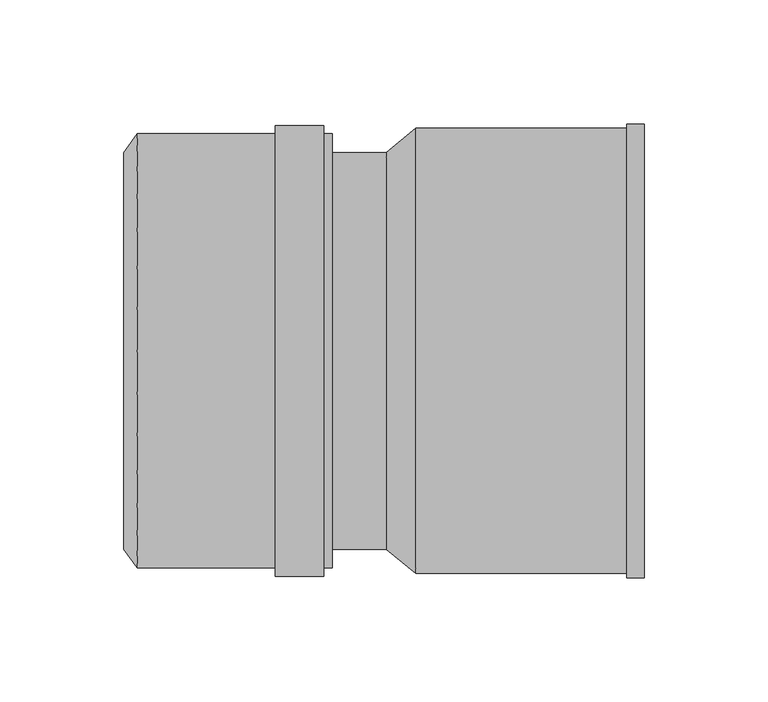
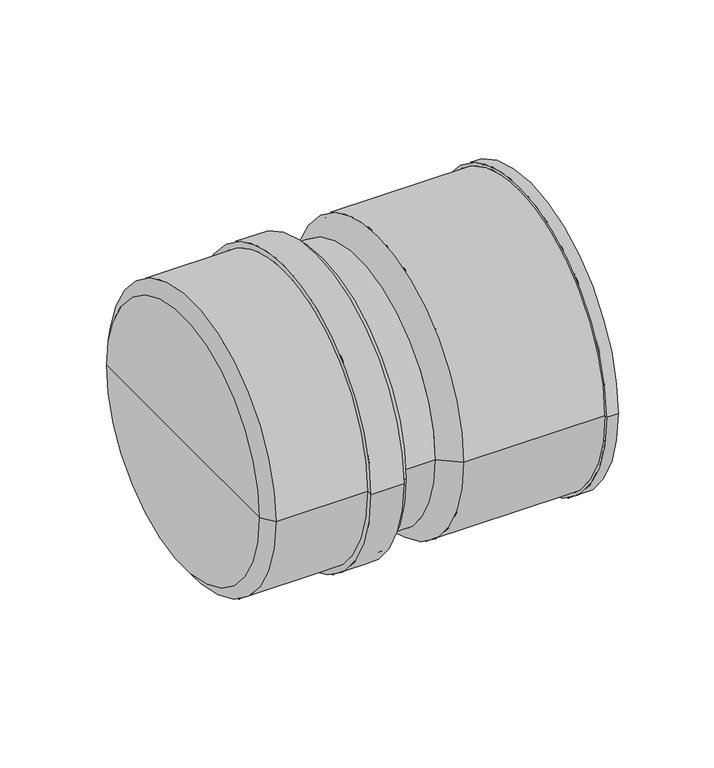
"""IFC4 building model written with IfcOpenShell, lengths in millimetres: pipe fitting geometry, pf_KGUG : pf_KGUG."""

from ifc_helpers import new_model, si_unit, point, frame, origin, origin_2d, place, context, project, spatial, polyline, circle_curve, trimmed, segment, composite_curve, outline, extrude, source, transform, mapped, element, save
from ifc_brep_helpers import plane_surface, cylinder_surface, revolved_surface, advanced_brep


def pipe_fitting_2887bba4(model_context):
    return source(origin(), model_context, "Body", "SolidModel", [
        advanced_brep(
        [(-105.7, -80.0, 0.0), (-105.7, 80.0, 0.0), (-100.3, 87.6, 0.0), (-100.3, -87.6, 0.0), (-105.7, 0.0, 0.0), (-21.7, -87.6, 0.0), (-21.7, 87.6, 0.0), (-21.7, 80.0, 0.0), (-21.7, -80.0, 0.0), (-25.1, -87.6, 0.0), (-25.1, 87.6, 0.0), (-25.1, -91.0, 0.0), (-25.1, 91.0, 0.0), (-44.8, -91.0, 0.0), (-44.8, 91.0, 0.0), (-44.8, -87.6, 0.0), (-44.8, 87.6, 0.0), (-100.3, -80.0, 0.0), (-100.3, 80.0, 0.0), (-100.3, 0.0, 0.0)],
        [
            (0, 1, circle_curve(frame((-105.7, 0.0, 0.0), z_axis=(1.0, 0.0, 0.0), x_axis=(0.0, 1.0, 0.0)), 80.0)),
            (1, 2),
            (2, 3, circle_curve(frame((-100.3, 0.0, 0.0), z_axis=(-1.0, 0.0, 0.0), x_axis=(0.0, 1.0, 0.0)), 87.6)),
            (3, 0),
            (1, 0, circle_curve(frame((-105.7, 0.0, 0.0), z_axis=(1.0, 0.0, 0.0), x_axis=(0.0, 1.0, 0.0)), 80.0)),
            (3, 2, circle_curve(frame((-100.3, 0.0, 0.0), z_axis=(-1.0, 0.0, 0.0), x_axis=(0.0, 1.0, 0.0)), 87.6)),
            (4, 1),
            (0, 4),
            (5, 6, circle_curve(frame((-21.7, 0.0, 0.0), z_axis=(1.0, 0.0, 0.0), x_axis=(0.0, 1.0, 0.0)), 87.6)),
            (6, 7),
            (7, 8, circle_curve(frame((-21.7, 0.0, 0.0), z_axis=(-1.0, 0.0, 0.0), x_axis=(0.0, 1.0, 0.0)), 80.0)),
            (8, 5),
            (6, 5, circle_curve(frame((-21.7, 0.0, 0.0), z_axis=(1.0, 0.0, 0.0), x_axis=(0.0, 1.0, 0.0)), 87.6)),
            (8, 7, circle_curve(frame((-21.7, 0.0, 0.0), z_axis=(-1.0, 0.0, 0.0), x_axis=(0.0, 1.0, 0.0)), 80.0)),
            (9, 10, circle_curve(frame((-25.1, 0.0, 0.0), z_axis=(1.0, 0.0, 0.0), x_axis=(0.0, 1.0, 0.0)), 87.6)),
            (10, 6),
            (5, 9),
            (10, 9, circle_curve(frame((-25.1, 0.0, 0.0), z_axis=(1.0, 0.0, 0.0), x_axis=(0.0, 1.0, 0.0)), 87.6)),
            (11, 12, circle_curve(frame((-25.1, 0.0, 0.0), z_axis=(1.0, 0.0, 0.0), x_axis=(0.0, 1.0, 0.0)), 91.0)),
            (12, 10),
            (9, 11),
            (12, 11, circle_curve(frame((-25.1, 0.0, 0.0), z_axis=(1.0, 0.0, 0.0), x_axis=(0.0, 1.0, 0.0)), 91.0)),
            (13, 14, circle_curve(frame((-44.8, 0.0, 0.0), z_axis=(1.0, 0.0, 0.0), x_axis=(0.0, 1.0, 0.0)), 91.0)),
            (14, 12),
            (11, 13),
            (14, 13, circle_curve(frame((-44.8, 0.0, 0.0), z_axis=(1.0, 0.0, 0.0), x_axis=(0.0, 1.0, 0.0)), 91.0)),
            (15, 16, circle_curve(frame((-44.8, 0.0, 0.0), z_axis=(1.0, 0.0, 0.0), x_axis=(0.0, 1.0, 0.0)), 87.6)),
            (16, 14),
            (13, 15),
            (16, 15, circle_curve(frame((-44.8, 0.0, 0.0), z_axis=(1.0, 0.0, 0.0), x_axis=(0.0, 1.0, 0.0)), 87.6)),
            (2, 16),
            (15, 3),
            (17, 18, circle_curve(frame((-100.3, 0.0, 0.0), z_axis=(1.0, 0.0, 0.0), x_axis=(0.0, 1.0, 0.0)), 80.0)),
            (18, 19),
            (19, 17),
            (18, 17, circle_curve(frame((-100.3, 0.0, 0.0), z_axis=(1.0, 0.0, 0.0), x_axis=(0.0, 1.0, 0.0)), 80.0)),
            (7, 18),
            (17, 8),
        ],
        [
            revolved_surface(polyline([(-100.3, 87.6, 0.0), (-105.7, 80.0, 0.0)]), (-105.7, 0.0, 0.0), (-1.0, 0.0, 0.0)),
            plane_surface(frame((-105.7, 0.0, 0.0), z_axis=(-1.0, 0.0, 0.0), x_axis=(0.0, 1.0, 0.0))),
            plane_surface(frame((-21.7, 0.0, 0.0), z_axis=(1.0, 0.0, 0.0), x_axis=(0.0, 1.0, 0.0))),
            cylinder_surface(frame((-105.7, 0.0, 0.0), z_axis=(-1.0, 0.0, 0.0), x_axis=(0.0, 1.0, 0.0)), 87.6),
            plane_surface(frame((-25.1, 0.0, 0.0), z_axis=(1.0, 0.0, 0.0), x_axis=(0.0, 1.0, 0.0))),
            cylinder_surface(frame((-105.7, 0.0, 0.0), z_axis=(-1.0, 0.0, 0.0), x_axis=(0.0, 1.0, 0.0)), 91.0),
            plane_surface(frame((-44.8, 0.0, 0.0), z_axis=(-1.0, 0.0, 0.0), x_axis=(0.0, 1.0, 0.0))),
            plane_surface(frame((-100.3, 0.0, 0.0), z_axis=(1.0, 0.0, 0.0), x_axis=(0.0, 1.0, 0.0))),
            revolved_surface(polyline([(-100.3, 80.0, 0.0), (-21.700000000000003, 80.0, 0.0)]), (-105.7, 0.0, 0.0), (-1.0, 0.0, 0.0)),
        ],
        [
            (0, [[1, 2, 3, 4]]),
            (0, [[5, -4, 6, -2]]),
            (1, [[7, -1, 8]]),
            (1, [[-8, -5, -7]]),
            (2, [[9, 10, 11, 12]]),
            (2, [[13, -12, 14, -10]]),
            (3, [[15, 16, -9, 17]]),
            (3, [[18, -17, -13, -16]]),
            (4, [[19, 20, -15, 21]]),
            (4, [[22, -21, -18, -20]]),
            (5, [[23, 24, -19, 25]]),
            (5, [[26, -25, -22, -24]]),
            (6, [[27, 28, -23, 29]]),
            (6, [[30, -29, -26, -28]]),
            (3, [[-3, 31, -27, 32]]),
            (3, [[-6, -32, -30, -31]]),
            (7, [[33, 34, 35]]),
            (7, [[36, -35, -34]]),
            (8, [[-11, 37, -33, 38]]),
            (8, [[-14, -38, -36, -37]]),
        ],
    ),
        extrude(outline(composite_curve([segment(trimmed(circle_curve(origin_2d(), 80.0), [point((-80.0, 0.0))], [point((80.0, 0.0))], False, "CARTESIAN"), True, "CONTINUOUS"), segment(trimmed(circle_curve(origin_2d(), 80.0), [point((80.0, 0.0))], [point((-80.0, 0.0))], False, "CARTESIAN"), True, "CONTINUOUS")], self_intersect=False)), frame((-21.7, 0.0, 0.0), z_axis=(1.0, 0.0, 0.0), x_axis=(0.0, 1.0, 0.0)), (0.0, 0.0, 1.0), 21.7),
        advanced_brep(
        [(104.0, -88.0, 0.0), (104.0, 88.0, 0.0), (12.0, 88.0, 0.0), (12.0, -88.0, 0.0), (104.0, -91.6, 0.0), (104.0, 91.6, 0.0), (12.0, -89.8, 0.0), (12.0, 89.8, 0.0), (97.0184027, 89.8, 0.0), (97.0184027, -89.8, 0.0), (0.0, -80.0, 0.0), (0.0, 80.0, 0.0), (0.0, 0.0, 0.0), (97.0184027, 91.6, 0.0), (97.0184027, -91.6, 0.0), (12.0, 0.0, 0.0)],
        [
            (0, 1, circle_curve(frame((104.0, 0.0, 0.0), z_axis=(1.0, 0.0, 0.0), x_axis=(0.0, 1.0, 0.0)), 88.0)),
            (1, 2),
            (2, 3, circle_curve(frame((12.0, 0.0, 0.0), z_axis=(-1.0, 0.0, 0.0), x_axis=(0.0, 1.0, 0.0)), 88.0)),
            (3, 0),
            (4, 5, circle_curve(frame((104.0, 0.0, 0.0), z_axis=(1.0, 0.0, 0.0), x_axis=(0.0, 1.0, 0.0)), 91.6)),
            (5, 1),
            (0, 4),
            (6, 7, circle_curve(frame((12.0, 0.0, 0.0), z_axis=(1.0, 0.0, 0.0), x_axis=(0.0, 1.0, 0.0)), 89.8)),
            (7, 8),
            (8, 9, circle_curve(frame((97.0184027, 0.0, 0.0), z_axis=(-1.0, 0.0, 0.0), x_axis=(0.0, 1.0, 0.0)), 89.8)),
            (9, 6),
            (10, 11, circle_curve(frame((0.0, 0.0, 0.0), z_axis=(1.0, 0.0, 0.0), x_axis=(0.0, 1.0, 0.0)), 80.0)),
            (11, 7),
            (6, 10),
            (12, 11),
            (10, 12),
            (8, 13),
            (13, 14, circle_curve(frame((97.0184027, 0.0, 0.0), z_axis=(-1.0, 0.0, 0.0), x_axis=(0.0, 1.0, 0.0)), 91.6)),
            (14, 9),
            (1, 0, circle_curve(frame((104.0, 0.0, 0.0), z_axis=(1.0, 0.0, 0.0), x_axis=(0.0, 1.0, 0.0)), 88.0)),
            (3, 2, circle_curve(frame((12.0, 0.0, 0.0), z_axis=(-1.0, 0.0, 0.0), x_axis=(0.0, 1.0, 0.0)), 88.0)),
            (5, 4, circle_curve(frame((104.0, 0.0, 0.0), z_axis=(1.0, 0.0, 0.0), x_axis=(0.0, 1.0, 0.0)), 91.6)),
            (13, 5),
            (4, 14),
            (13, 14, circle_curve(frame((97.0184027, 0.0, 0.0), z_axis=(1.0, 0.0, 0.0), x_axis=(0.0, 1.0, 0.0)), 91.6)),
            (8, 9, circle_curve(frame((97.0184027, 0.0, 0.0), z_axis=(1.0, 0.0, 0.0), x_axis=(0.0, 1.0, 0.0)), 89.8)),
            (7, 6, circle_curve(frame((12.0, 0.0, 0.0), z_axis=(1.0, 0.0, 0.0), x_axis=(0.0, 1.0, 0.0)), 89.8)),
            (11, 10, circle_curve(frame((0.0, 0.0, 0.0), z_axis=(1.0, 0.0, 0.0), x_axis=(0.0, 1.0, 0.0)), 80.0)),
            (2, 15),
            (15, 3),
        ],
        [
            revolved_surface(polyline([(12.0, 88.0, 0.0), (104.0, 88.0, 0.0)]), (110.0, 0.0, 0.0), (-1.0, 0.0, 0.0)),
            plane_surface(frame((104.0, 0.0, 0.0), z_axis=(1.0, 0.0, 0.0), x_axis=(0.0, 1.0, 0.0))),
            cylinder_surface(frame((110.0, 0.0, 0.0), z_axis=(-1.0, 0.0, 0.0), x_axis=(0.0, 1.0, 0.0)), 89.8),
            revolved_surface(polyline([(12.0, 89.8, 0.0), (0.0, 80.0, 0.0)]), (110.0, 0.0, 0.0), (-1.0, 0.0, 0.0)),
            plane_surface(frame((0.0, 0.0, 0.0), z_axis=(-1.0, 0.0, 0.0), x_axis=(0.0, 1.0, 0.0))),
            plane_surface(frame((97.0184027, 0.0, 0.0), z_axis=(-1.0, 0.0, 0.0), x_axis=(0.0, 1.0, 0.0))),
            cylinder_surface(frame((110.0, 0.0, 0.0), z_axis=(-1.0, 0.0, 0.0), x_axis=(0.0, 1.0, 0.0)), 91.6),
            plane_surface(frame((12.0, 0.0, 0.0), z_axis=(1.0, 0.0, 0.0), x_axis=(0.0, 1.0, 0.0))),
        ],
        [
            (0, [[1, 2, 3, 4]]),
            (1, [[5, 6, -1, 7]]),
            (2, [[8, 9, 10, 11]]),
            (3, [[12, 13, -8, 14]]),
            (4, [[15, -12, 16]]),
            (5, [[-10, 17, 18, 19]]),
            (0, [[20, -4, 21, -2]]),
            (1, [[22, -7, -20, -6]]),
            (6, [[-18, 23, -5, 24]]),
            (6, [[25, -24, -22, -23]]),
            (5, [[26, -19, -25, -17]]),
            (2, [[27, -11, -26, -9]]),
            (3, [[28, -14, -27, -13]]),
            (4, [[-16, -28, -15]]),
            (7, [[-3, 29, 30]]),
            (7, [[-21, -30, -29]]),
        ],
    ),
    ])


if __name__ == "__main__":
    model = new_model("IFC4")
    model_context = context("Model", 3, world=origin())
    ifc_project = project(units=[si_unit("LENGTHUNIT", "METRE", prefix="MILLI")], contexts=[model_context])
    site = spatial("IfcSite", under=ifc_project)
    building = spatial("IfcBuilding", under=site)
    placement = place(None, origin())
    pipe_fitting_shape = pipe_fitting_2887bba4(model_context)
    element("IfcPipeFitting", 1, ObjectType="pf_KGUG : pf_KGUG", at=placement, inside=building, context=model_context, shape_type="MappedRepresentation", body=[
        mapped(pipe_fitting_shape, transform((0.0, 0.0, 0.0), x_axis=(1.0, 0.0, 0.0), y_axis=(0.0, 1.0, 0.0), z_axis=(0.0, 0.0, 1.0))),
    ])
    save(model, "model.ifc")
